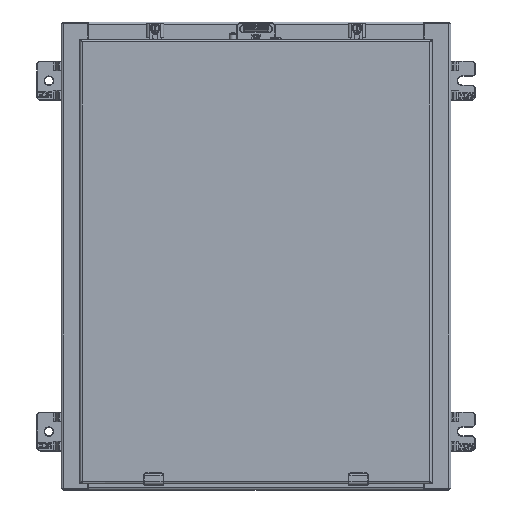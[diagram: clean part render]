
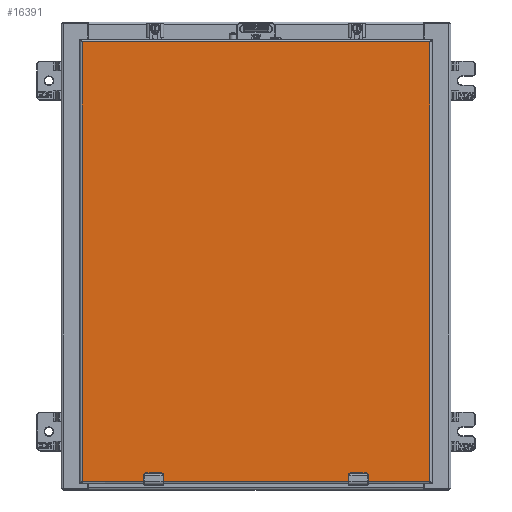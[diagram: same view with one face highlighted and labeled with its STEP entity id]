
A CAD part, top view. The second image highlights one B-rep face of the part: STEP entity #16391.
In plain terms, the highlighted planar face has unit normal (0, 0, 1) as drawn and (0, 1, 0) by its records, which use the part's own axes.
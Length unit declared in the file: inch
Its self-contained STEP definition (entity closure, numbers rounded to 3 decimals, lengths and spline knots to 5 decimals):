
#12824=DIRECTION('',(0.,0.,1.));
#12825=VECTOR('',#12824,22.566);
#12826=CARTESIAN_POINT('',(-8.91438,0.,0.117));
#12827=LINE('',#12826,#12825);
#12914=DIRECTION('',(0.,0.,-1.));
#12915=VECTOR('',#12914,0.3629);
#12916=CARTESIAN_POINT('',(5.59513,0.,22.683));
#12917=LINE('',#12916,#12915);
#12921=DIRECTION('',(-1.,0.,0.));
#12922=VECTOR('',#12921,0.63);
#12923=CARTESIAN_POINT('',(5.56513,0.,22.2901));
#12924=LINE('',#12923,#12922);
#12928=DIRECTION('',(0.,0.,-1.));
#12929=VECTOR('',#12928,0.3629);
#12930=CARTESIAN_POINT('',(4.90513,0.,22.683));
#12931=LINE('',#12930,#12929);
#12935=DIRECTION('',(0.,0.,-1.));
#12936=VECTOR('',#12935,0.3629);
#12937=CARTESIAN_POINT('',(-4.90513,0.,22.683));
#12938=LINE('',#12937,#12936);
#12942=DIRECTION('',(-1.,0.,0.));
#12943=VECTOR('',#12942,0.63);
#12944=CARTESIAN_POINT('',(-4.93513,0.,22.2901));
#12945=LINE('',#12944,#12943);
#12949=DIRECTION('',(0.,0.,-1.));
#12950=VECTOR('',#12949,0.3629);
#12951=CARTESIAN_POINT('',(-5.59513,0.,22.683));
#12952=LINE('',#12951,#12950);
#12956=DIRECTION('',(0.,0.,1.));
#12957=VECTOR('',#12956,22.566);
#12958=CARTESIAN_POINT('',(8.91438,0.,0.117));
#12959=LINE('',#12958,#12957);
#13147=DIRECTION('',(-1.,0.,0.));
#13148=VECTOR('',#13147,17.82875);
#13149=CARTESIAN_POINT('',(8.91438,0.,0.117));
#13150=LINE('',#13149,#13148);
#14004=CARTESIAN_POINT('',(4.93513,0.,22.3201));
#14005=DIRECTION('',(0.,-1.,0.));
#14006=DIRECTION('',(-1.,0.,0.));
#14007=AXIS2_PLACEMENT_3D('',#14004,#14005,#14006);
#14034=CARTESIAN_POINT('',(5.56513,0.,22.3201));
#14035=DIRECTION('',(0.,-1.,0.));
#14036=DIRECTION('',(0.,0.,-1.));
#14037=AXIS2_PLACEMENT_3D('',#14034,#14035,#14036);
#14443=DIRECTION('',(-1.,0.,0.));
#14444=VECTOR('',#14443,9.81025);
#14445=CARTESIAN_POINT('',(4.90513,0.,22.683));
#14446=LINE('',#14445,#14444);
#14490=DIRECTION('',(-1.,0.,0.));
#14491=VECTOR('',#14490,3.31925);
#14492=CARTESIAN_POINT('',(-5.59513,0.,22.683));
#14493=LINE('',#14492,#14491);
#14527=DIRECTION('',(-1.,0.,0.));
#14528=VECTOR('',#14527,3.31925);
#14529=CARTESIAN_POINT('',(8.91438,0.,22.683));
#14530=LINE('',#14529,#14528);
#14608=CARTESIAN_POINT('',(-5.56513,0.,22.3201));
#14609=DIRECTION('',(0.,-1.,0.));
#14610=DIRECTION('',(-1.,0.,0.));
#14611=AXIS2_PLACEMENT_3D('',#14608,#14609,#14610);
#14638=CARTESIAN_POINT('',(-4.93513,0.,22.3201));
#14639=DIRECTION('',(0.,-1.,0.));
#14640=DIRECTION('',(0.,0.,-1.));
#14641=AXIS2_PLACEMENT_3D('',#14638,#14639,#14640);
#15482=CARTESIAN_POINT('',(8.91438,0.,0.117));
#15483=CARTESIAN_POINT('',(-8.91438,0.,0.117));
#15484=VERTEX_POINT('',#15482);
#15485=VERTEX_POINT('',#15483);
#15692=CARTESIAN_POINT('',(-8.91438,0.,22.683));
#15693=VERTEX_POINT('',#15692);
#15702=CARTESIAN_POINT('',(8.91438,0.,22.683));
#15704=VERTEX_POINT('',#15702);
#15799=CARTESIAN_POINT('',(-4.90513,0.,22.683));
#15801=VERTEX_POINT('',#15799);
#15803=CARTESIAN_POINT('',(-5.59513,0.,22.683));
#15805=VERTEX_POINT('',#15803);
#15815=CARTESIAN_POINT('',(5.59513,0.,22.683));
#15817=VERTEX_POINT('',#15815);
#15819=CARTESIAN_POINT('',(4.90513,0.,22.683));
#15821=VERTEX_POINT('',#15819);
#15830=CARTESIAN_POINT('',(-5.59513,0.,22.3201));
#15832=VERTEX_POINT('',#15830);
#15834=CARTESIAN_POINT('',(-5.56513,0.,22.2901));
#15836=VERTEX_POINT('',#15834);
#15854=CARTESIAN_POINT('',(-4.93513,0.,22.2901));
#15856=VERTEX_POINT('',#15854);
#15858=CARTESIAN_POINT('',(-4.90513,0.,22.3201));
#15860=VERTEX_POINT('',#15858);
#15862=CARTESIAN_POINT('',(4.90513,0.,22.3201));
#15864=VERTEX_POINT('',#15862);
#15866=CARTESIAN_POINT('',(4.93513,0.,22.2901));
#15868=VERTEX_POINT('',#15866);
#15886=CARTESIAN_POINT('',(5.56513,0.,22.2901));
#15888=VERTEX_POINT('',#15886);
#15890=CARTESIAN_POINT('',(5.59513,0.,22.3201));
#15892=VERTEX_POINT('',#15890);
#16353=CARTESIAN_POINT('',(9.03138,0.,0.));
#16354=DIRECTION('',(0.,1.,0.));
#16355=DIRECTION('',(-1.,0.,0.));
#16356=AXIS2_PLACEMENT_3D('',#16353,#16354,#16355);
#16357=PLANE('',#16356);
#16359=ORIENTED_EDGE('',*,*,#16358,.T.);
#16361=ORIENTED_EDGE('',*,*,#16360,.T.);
#16363=ORIENTED_EDGE('',*,*,#16362,.T.);
#16365=ORIENTED_EDGE('',*,*,#16364,.F.);
#16367=ORIENTED_EDGE('',*,*,#16366,.T.);
#16369=ORIENTED_EDGE('',*,*,#16368,.F.);
#16371=ORIENTED_EDGE('',*,*,#16370,.F.);
#16373=ORIENTED_EDGE('',*,*,#16372,.T.);
#16375=ORIENTED_EDGE('',*,*,#16374,.T.);
#16377=ORIENTED_EDGE('',*,*,#16376,.F.);
#16379=ORIENTED_EDGE('',*,*,#16378,.T.);
#16381=ORIENTED_EDGE('',*,*,#16380,.F.);
#16383=ORIENTED_EDGE('',*,*,#16382,.F.);
#16385=ORIENTED_EDGE('',*,*,#16384,.T.);
#16386=ORIENTED_EDGE('',*,*,#16343,.F.);
#16388=ORIENTED_EDGE('',*,*,#16387,.F.);
#16389=EDGE_LOOP('',(#16359,#16361,#16363,#16365,#16367,#16369,#16371,#16373,
#16375,#16377,#16379,#16381,#16383,#16385,#16386,#16388));
#16390=FACE_OUTER_BOUND('',#16389,.F.);
#14008=CIRCLE('',#14007,0.03);
#14038=CIRCLE('',#14037,0.03);
#14612=CIRCLE('',#14611,0.03);
#14642=CIRCLE('',#14641,0.03);
#16343=EDGE_CURVE('',#15485,#15693,#12827,.T.);
#16358=EDGE_CURVE('',#15484,#15704,#12959,.T.);
#16360=EDGE_CURVE('',#15704,#15817,#14530,.T.);
#16362=EDGE_CURVE('',#15817,#15892,#12917,.T.);
#16364=EDGE_CURVE('',#15888,#15892,#14038,.T.);
#16366=EDGE_CURVE('',#15888,#15868,#12924,.T.);
#16368=EDGE_CURVE('',#15864,#15868,#14008,.T.);
#16370=EDGE_CURVE('',#15821,#15864,#12931,.T.);
#16372=EDGE_CURVE('',#15821,#15801,#14446,.T.);
#16374=EDGE_CURVE('',#15801,#15860,#12938,.T.);
#16376=EDGE_CURVE('',#15856,#15860,#14642,.T.);
#16378=EDGE_CURVE('',#15856,#15836,#12945,.T.);
#16380=EDGE_CURVE('',#15832,#15836,#14612,.T.);
#16382=EDGE_CURVE('',#15805,#15832,#12952,.T.);
#16384=EDGE_CURVE('',#15805,#15693,#14493,.T.);
#16387=EDGE_CURVE('',#15484,#15485,#13150,.T.);
#16391=ADVANCED_FACE('',(#16390),#16357,.T.);
